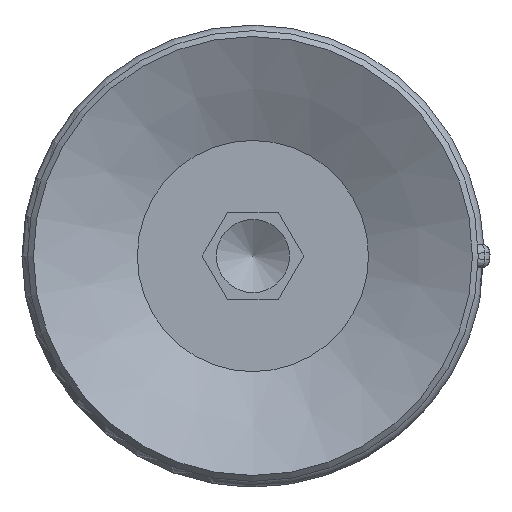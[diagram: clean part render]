
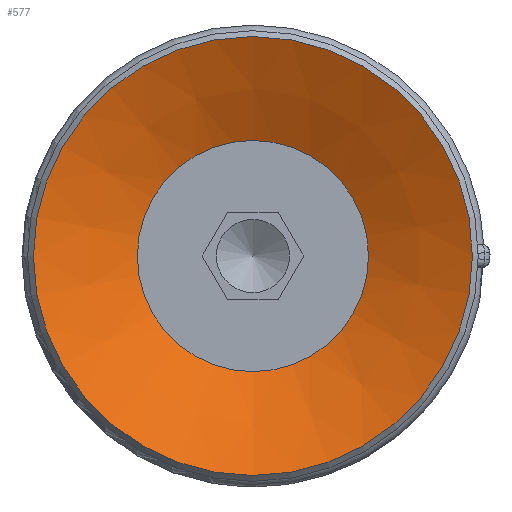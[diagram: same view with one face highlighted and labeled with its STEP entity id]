
A CAD part, front view. The second image highlights one B-rep face of the part: STEP entity #577.
In plain terms, the highlighted conical face has half-angle 64 degrees and reference radius 3.95 mm.
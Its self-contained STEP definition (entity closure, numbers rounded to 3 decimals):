
#577=ADVANCED_FACE('',(#886,#887),#888,.F.);
#886=FACE_BOUND('',#1260,.T.);
#887=FACE_OUTER_BOUND('',#1261,.T.);
#888=CONICAL_SURFACE('',#1262,3.95,1.117);
#1260=EDGE_LOOP('',(#2213));
#1261=EDGE_LOOP('',(#2214));
#1262=AXIS2_PLACEMENT_3D('',#2215,#2216,#2217);
#2213=ORIENTED_EDGE('',*,*,#2566,.F.);
#2214=ORIENTED_EDGE('',*,*,#2567,.T.);
#2215=CARTESIAN_POINT('',(0.0,-29.404,-47.168));
#2216=DIRECTION('',(-0.0,0.,1.0));
#2217=DIRECTION('',(0.0,-1.0,0.));
#2566=EDGE_CURVE('',#3002,#3002,#3003,.T.);
#2567=EDGE_CURVE('',#3004,#3004,#3005,.T.);
#3002=VERTEX_POINT('',#4062);
#3003=CIRCLE('',#4063,3.95);
#3004=VERTEX_POINT('',#4064);
#3005=CIRCLE('',#4065,7.5);
#4062=CARTESIAN_POINT('',(0.0,-33.354,-47.168));
#4063=AXIS2_PLACEMENT_3D('',#4482,#4483,#4484);
#4064=CARTESIAN_POINT('',(0.0,-36.904,-45.437));
#4065=AXIS2_PLACEMENT_3D('',#4485,#4486,#4487);
#4482=CARTESIAN_POINT('',(0.0,-29.404,-47.168));
#4483=DIRECTION('',(0.0,0.,1.0));
#4484=DIRECTION('',(0.0,-1.0,0.));
#4485=CARTESIAN_POINT('',(0.0,-29.404,-45.437));
#4486=DIRECTION('',(0.0,0.,1.0));
#4487=DIRECTION('',(0.0,-1.0,0.));
